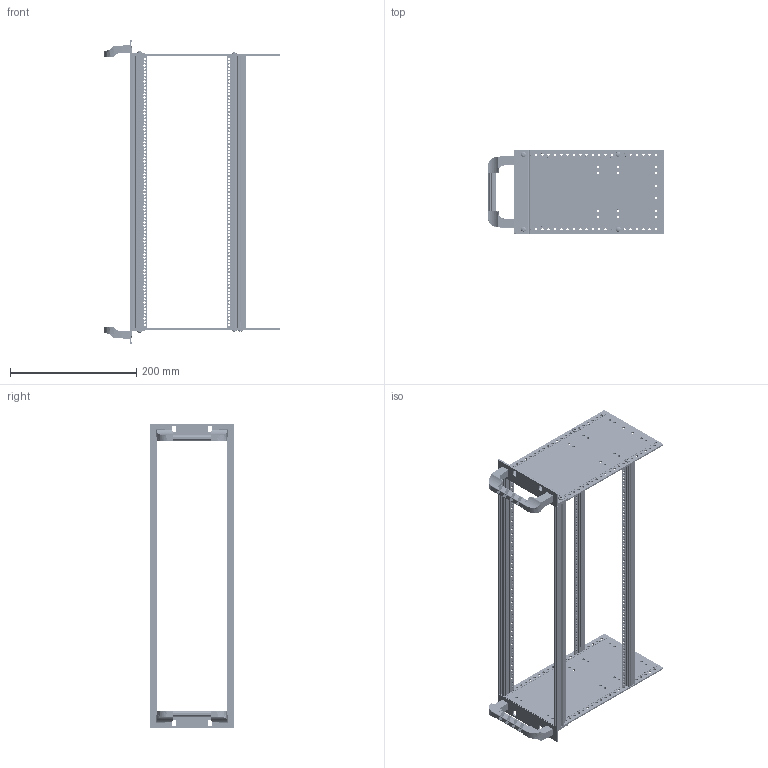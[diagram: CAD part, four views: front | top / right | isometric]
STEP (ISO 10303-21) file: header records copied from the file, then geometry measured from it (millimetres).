
FILE_DESCRIPTION(('OneSpaceDesigner STEP Export'),'2;1');
FILE_NAME('24531521.stp','2011-02-15T12:17:25',(''),(''),'OneSpace Designer STEP processor for AP214 (Solid Model)','OneSpace Modeling 15.50A 21-Sep-2007 (C) CoCreate Software GmbH','');
FILE_SCHEMA(('AUTOMOTIVE_DESIGN { 1 0 10303 214 1 1 1 1 }'));
Length unit declared in the file: millimetre
Products named in the file (12): 0630121_Senkschr_M5x12St.1.1.1; 0630096_Linsenschraube_M4x12St.1.1.1.1.1; 061133601_Griffrohr.1; 061130002_Kopfstück_für_Griffrohr; 061130001_Kopfstück_für_Griffrohr; 024530250_Seitenwand_3HE_T236; 024102201_Modulschiene_85TE_Standard.1; 024100203_Frontwinkel_3HE.1; 0240051_Gewindeleiste_85TE_7x2_M2; 024101301_Modulschiene_85TE_Bus.1; 0240061_Gewindeleiste_85TE_5x1.5_M2.1; 024531521_BGT_V_2_84TE_T_236mm
Assembly tree (30 placements, depth 2):
  024531521_BGT_V_2_84TE_T_236mm
    0240061_Gewindeleiste_85TE_5x1.5_M2.1  x2
    024101301_Modulschiene_85TE_Bus.1  x2
    0240051_Gewindeleiste_85TE_7x2_M2  x2
    024100203_Frontwinkel_3HE.1  x2
    024102201_Modulschiene_85TE_Standard.1  x2
    024530250_Seitenwand_3HE_T236  x2
    061130001_Kopfstück_für_Griffrohr  x2
    061130002_Kopfstück_für_Griffrohr  x2
    061133601_Griffrohr.1  x2
    0630096_Linsenschraube_M4x12St.1.1.1.1.1  x8
    0630121_Senkschr_M5x12St.1.1.1  x4
Bounding box: 279.58 x 132.5 x 482.1 mm (x, y, z)
Volume: 412678.7 mm3; surface area: 403964.4 mm2
Topology: 30 solids, 30 shells, 4460 faces, 12528 edges, 8324 vertices
Faces by surface type: cylinder 1838, plane 1834, cone 752, torus 16, bspline 16, extrusion 4
Entity records: 67920 total; most frequent: CARTESIAN_POINT 13052, ORIENTED_EDGE 12076, DIRECTION 10302, EDGE_CURVE 6038, VERTEX_POINT 4012, AXIS2_PLACEMENT_3D 3440, VECTOR 3422, LINE 3420
